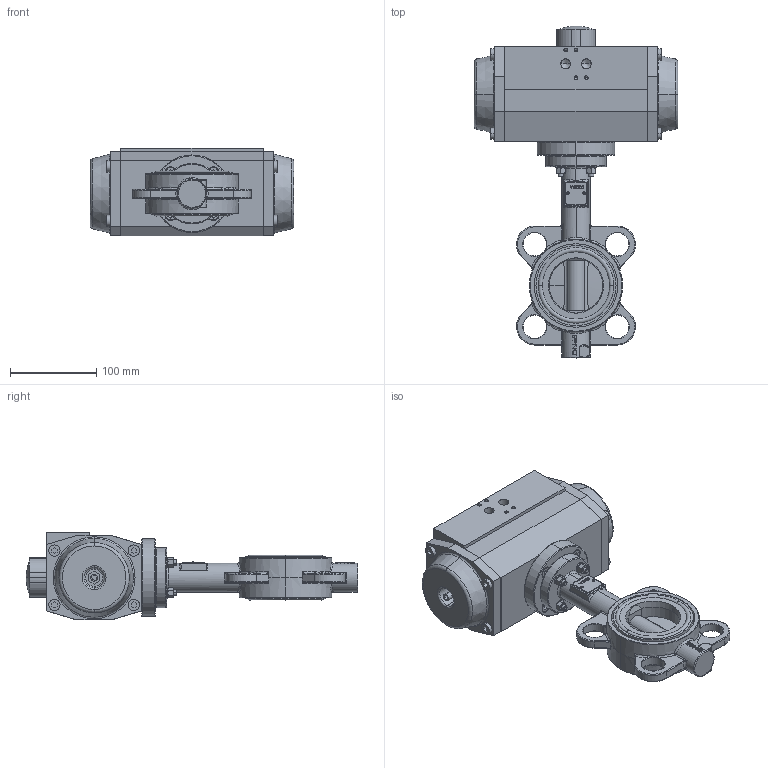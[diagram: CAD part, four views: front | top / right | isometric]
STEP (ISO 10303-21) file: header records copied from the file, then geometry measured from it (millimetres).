
FILE_DESCRIPTION (( 'STEP AP214' ), '1' );
FILE_NAME ('VTB200 DN65 + AP3.5S.STEP', '2015-10-04T19:17:29', ( '' ), ( '' ), 'SwSTEP 2.0', 'SolidWorks 2013', '' );
FILE_SCHEMA (( 'AUTOMOTIVE_DESIGN' ));
Length unit declared in the file: millimetre
Products named in the file (13): plain washer grade a_din_Washer DIN 125 - A 6.4; Verloopvierkant 11_9; VTB200 Wafer DN65 BS; Typeplaatje xxmm; Klep VTB200 DN65 2013; Huis met zitting DN65 2013; VTB200 DN65 + AP3.5S; hex nut gradec_din_Hexagon Nut ISO 4034 - M6 - N; hex bolt gradec_din_ISO 4016 - M6 x 35 x 18-WN; socket head cap screw_din_DIN 912 M8 x 16 --- 16N; YF090F5F7H16D16NYL; Verloopster 17_11; AP3.5_Default<As Machined>
Assembly tree (23 placements, depth 3):
  VTB200 DN65 + AP3.5S
    VTB200 Wafer DN65 BS
      Huis met zitting DN65 2013
      Klep VTB200 DN65 2013
      Typeplaatje xxmm
    Verloopvierkant 11_9
    plain washer grade a_din_Washer DIN 125 - A 6.4  x3
    AP3.5_Default<As Machined>
    Verloopster 17_11
    YF090F5F7H16D16NYL
    socket head cap screw_din_DIN 912 M8 x 16 --- 16N  x4
    hex bolt gradec_din_ISO 4016 - M6 x 35 x 18-WN  x4
    hex nut gradec_din_Hexagon Nut ISO 4034 - M6 - N  x4
Bounding box: 236 x 384.99 x 102 mm (x, y, z)
Volume: 2871859.3 mm3; surface area: 276884.6 mm2
Topology: 29 solids, 29 shells, 1280 faces, 3044 edges, 1845 vertices
Faces by surface type: plane 506, cylinder 298, bspline 164, cone 160, torus 134, sphere 18
Entity records: 45644 total; most frequent: CARTESIAN_POINT 19930, ORIENTED_EDGE 4896, DIRECTION 4627, EDGE_CURVE 2448, AXIS2_PLACEMENT_3D 1769, VERTEX_POINT 1532, EDGE_LOOP 1138, LINE 1089
